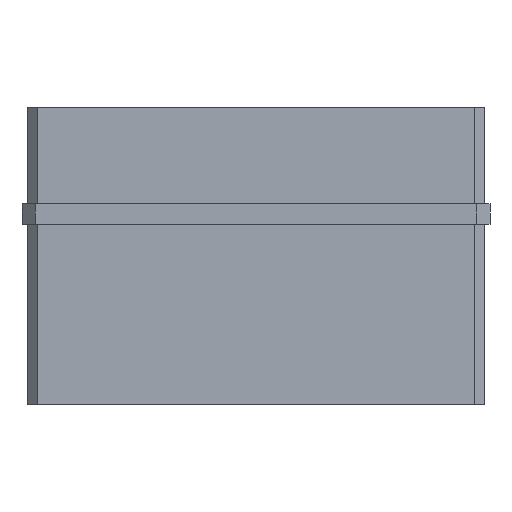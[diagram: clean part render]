
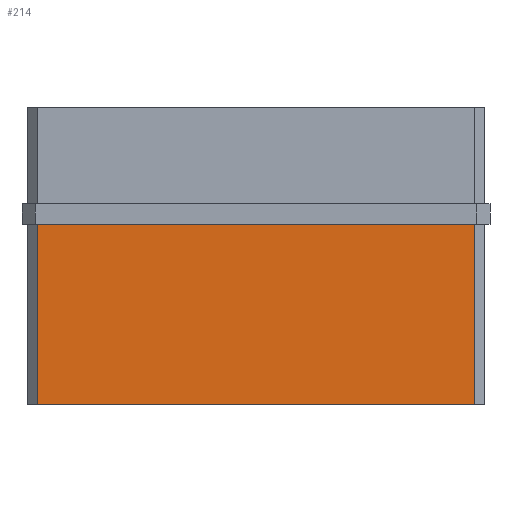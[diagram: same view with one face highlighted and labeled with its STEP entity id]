
A CAD part, front view. The second image highlights one B-rep face of the part: STEP entity #214.
In plain terms, the highlighted planar face has unit normal (0, -1, 0).
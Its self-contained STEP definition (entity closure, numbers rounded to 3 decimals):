
#214=ADVANCED_FACE('',(#470),#471,.F.);
#470=FACE_OUTER_BOUND('',#813,.T.);
#471=PLANE('',#814);
#813=EDGE_LOOP('',(#1340,#1341,#1342,#1343));
#814=AXIS2_PLACEMENT_3D('',#1344,#1345,#1346);
#1340=ORIENTED_EDGE('',*,*,#1860,.T.);
#1341=ORIENTED_EDGE('',*,*,#1877,.T.);
#1342=ORIENTED_EDGE('',*,*,#1866,.F.);
#1343=ORIENTED_EDGE('',*,*,#1878,.F.);
#1344=CARTESIAN_POINT('',(0.,-88.5,58.5));
#1345=DIRECTION('',(-0.0,1.0,0.0));
#1346=DIRECTION('',(1.0,0.0,0.0));
#1860=EDGE_CURVE('',#2194,#2192,#2195,.T.);
#1866=EDGE_CURVE('',#2203,#2205,#2206,.T.);
#1877=EDGE_CURVE('',#2192,#2205,#2225,.T.);
#1878=EDGE_CURVE('',#2194,#2203,#2226,.T.);
#2192=VERTEX_POINT('',#2727);
#2194=VERTEX_POINT('',#2730);
#2195=LINE('',#2731,#2732);
#2203=VERTEX_POINT('',#2743);
#2205=VERTEX_POINT('',#2746);
#2206=LINE('',#2747,#2748);
#2225=LINE('',#2772,#2773);
#2226=LINE('',#2774,#2775);
#2727=CARTESIAN_POINT('',(-43.0,-88.5,35.5));
#2730=CARTESIAN_POINT('',(43.0,-88.5,35.5));
#2731=CARTESIAN_POINT('',(0.,-88.5,35.5));
#2732=VECTOR('',#3239,1.0);
#2743=CARTESIAN_POINT('',(43.0,-88.5,0.0));
#2746=CARTESIAN_POINT('',(-43.0,-88.5,0.0));
#2747=CARTESIAN_POINT('',(0.,-88.5,0.0));
#2748=VECTOR('',#3244,1.0);
#2772=CARTESIAN_POINT('',(-43.0,-88.5,58.5));
#2773=VECTOR('',#3262,1.0);
#2774=CARTESIAN_POINT('',(43.0,-88.5,58.5));
#2775=VECTOR('',#3263,1.0);
#3239=DIRECTION('',(-1.0,0.,0.0));
#3244=DIRECTION('',(-1.0,0.0,0.0));
#3262=DIRECTION('',(0.0,0.0,-1.0));
#3263=DIRECTION('',(0.0,0.0,-1.0));
